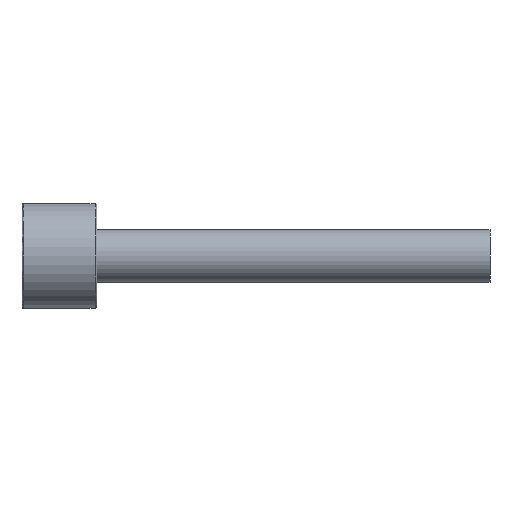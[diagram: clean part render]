
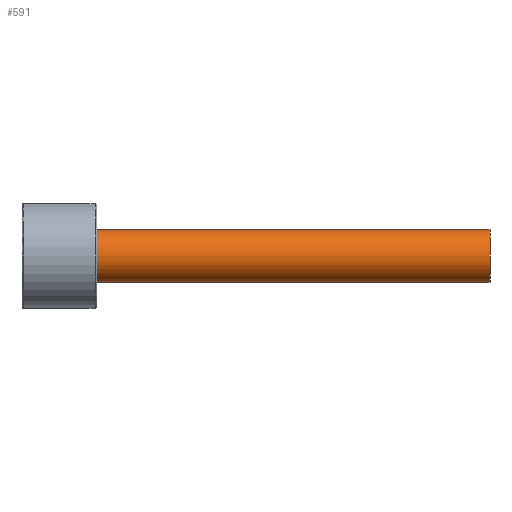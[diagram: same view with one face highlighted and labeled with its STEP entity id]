
A CAD part, front view. The second image highlights one B-rep face of the part: STEP entity #591.
In plain terms, the highlighted cylindrical face has radius 7 mm (diameter 14 mm), a partial arc.
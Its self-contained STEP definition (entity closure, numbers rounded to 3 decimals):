
#425=CARTESIAN_POINT('Vertex',(125.,0.,7.)) ;
#428=CARTESIAN_POINT('Axis2P3D Location',(125.,0.,0.)) ;
#432=CARTESIAN_POINT('Vertex',(125.,-7.,0.)) ;
#435=CARTESIAN_POINT('Axis2P3D Location',(125.,0.,0.)) ;
#439=CARTESIAN_POINT('Vertex',(125.,0.,-7.)) ;
#531=CARTESIAN_POINT('Line Origine',(125.,0.,7.)) ;
#535=CARTESIAN_POINT('Vertex',(20.,0.,7.)) ;
#538=CARTESIAN_POINT('Line Origine',(125.,0.,-7.)) ;
#542=CARTESIAN_POINT('Vertex',(20.,0.,-7.)) ;
#566=CARTESIAN_POINT('Axis2P3D Location',(125.,0.,0.)) ;
#571=CARTESIAN_POINT('Axis2P3D Location',(20.,0.,0.)) ;
#575=CARTESIAN_POINT('Vertex',(20.,-7.,0.)) ;
#578=CARTESIAN_POINT('Axis2P3D Location',(20.,0.,0.)) ;
#429=DIRECTION('Axis2P3D Direction',(1.,0.,-0.)) ;
#436=DIRECTION('Axis2P3D Direction',(1.,0.,-0.)) ;
#532=DIRECTION('Vector Direction',(-1.,0.,0.)) ;
#539=DIRECTION('Vector Direction',(-1.,0.,0.)) ;
#567=DIRECTION('Axis2P3D Direction',(-1.,-0.,-0.)) ;
#568=DIRECTION('Axis2P3D XDirection',(0.,0.,-1.)) ;
#572=DIRECTION('Axis2P3D Direction',(-1.,-0.,-0.)) ;
#579=DIRECTION('Axis2P3D Direction',(-1.,-0.,-0.)) ;
#430=AXIS2_PLACEMENT_3D('Circle Axis2P3D',#428,#429,$) ;
#437=AXIS2_PLACEMENT_3D('Circle Axis2P3D',#435,#436,$) ;
#569=AXIS2_PLACEMENT_3D('Cylinder Axis2P3D',#566,#567,#568) ;
#573=AXIS2_PLACEMENT_3D('Circle Axis2P3D',#571,#572,$) ;
#580=AXIS2_PLACEMENT_3D('Circle Axis2P3D',#578,#579,$) ;
#584=ORIENTED_EDGE('',*,*,#544,.T.) ;
#585=ORIENTED_EDGE('',*,*,#441,.F.) ;
#586=ORIENTED_EDGE('',*,*,#434,.F.) ;
#587=ORIENTED_EDGE('',*,*,#537,.T.) ;
#588=ORIENTED_EDGE('',*,*,#577,.T.) ;
#589=ORIENTED_EDGE('',*,*,#582,.T.) ;
#533=VECTOR('Line Direction',#532,1.) ;
#540=VECTOR('Line Direction',#539,1.) ;
#591=ADVANCED_FACE('367-14X125',(#590),#570,.T.) ;
#431=CIRCLE('generated circle',#430,7.) ;
#438=CIRCLE('generated circle',#437,7.) ;
#574=CIRCLE('generated circle',#573,7.) ;
#581=CIRCLE('generated circle',#580,7.) ;
#570=CYLINDRICAL_SURFACE('generated cylinder',#569,7.) ;
#434=EDGE_CURVE('',#426,#433,#431,.T.) ;
#441=EDGE_CURVE('',#433,#440,#438,.T.) ;
#537=EDGE_CURVE('',#426,#536,#534,.T.) ;
#544=EDGE_CURVE('',#543,#440,#541,.F.) ;
#577=EDGE_CURVE('',#536,#576,#574,.F.) ;
#582=EDGE_CURVE('',#576,#543,#581,.F.) ;
#583=EDGE_LOOP('',(#584,#585,#586,#587,#588,#589)) ;
#590=FACE_OUTER_BOUND('',#583,.T.) ;
#534=LINE('Line',#531,#533) ;
#541=LINE('Line',#538,#540) ;
#426=VERTEX_POINT('',#425) ;
#433=VERTEX_POINT('',#432) ;
#440=VERTEX_POINT('',#439) ;
#536=VERTEX_POINT('',#535) ;
#543=VERTEX_POINT('',#542) ;
#576=VERTEX_POINT('',#575) ;
